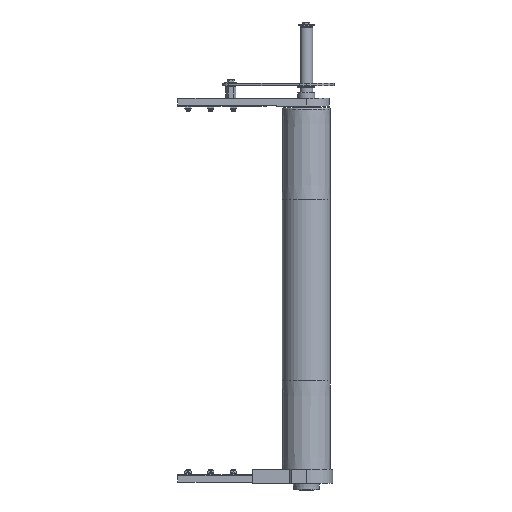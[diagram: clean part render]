
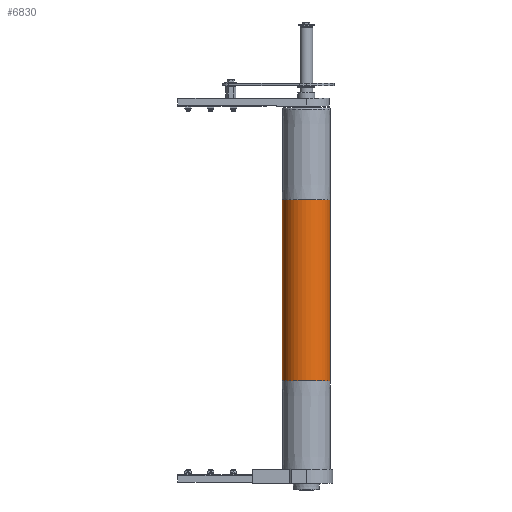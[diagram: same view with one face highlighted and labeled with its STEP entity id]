
A CAD part, front view. The second image highlights one B-rep face of the part: STEP entity #6830.
In plain terms, the highlighted cylindrical face has radius 47.5 mm (diameter 95 mm), a partial arc.
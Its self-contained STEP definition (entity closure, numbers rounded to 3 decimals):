
#252 = DIRECTION ( 'NONE',  ( 0., 0., -1. ) ) ;
#502 = CARTESIAN_POINT ( 'NONE',  ( 180., 0., -47.5 ) ) ;
#1133 = EDGE_CURVE ( 'NONE', #15030, #17204, #26416, .T. ) ;
#2314 = CYLINDRICAL_SURFACE ( 'NONE', #8768, 47.5 ) ;
#3085 = VERTEX_POINT ( 'NONE', #20996 ) ;
#6352 = CARTESIAN_POINT ( 'NONE',  ( 360., 0., -47.5 ) ) ;
#6830 = ADVANCED_FACE ( 'NONE', ( #20043 ), #2314, .T. ) ;
#8179 = VECTOR ( 'NONE', #14621, 1000. ) ;
#8768 = AXIS2_PLACEMENT_3D ( 'NONE', #10564, #10345, #22605 ) ;
#9446 = CIRCLE ( 'NONE', #27464, 47.5 ) ;
#9881 = CARTESIAN_POINT ( 'NONE',  ( -180., 0., -47.5 ) ) ;
#10345 = DIRECTION ( 'NONE',  ( -1., 0., 0. ) ) ;
#10491 = ORIENTED_EDGE ( 'NONE', *, *, #20661, .T. ) ;
#10564 = CARTESIAN_POINT ( 'NONE',  ( 360., 0., 0. ) ) ;
#11321 = DIRECTION ( 'NONE',  ( -1., 0., 0. ) ) ;
#12588 = EDGE_CURVE ( 'NONE', #3085, #17539, #24800, .T. ) ;
#12836 = AXIS2_PLACEMENT_3D ( 'NONE', #27003, #14717, #252 ) ;
#14573 = DIRECTION ( 'NONE',  ( 0., 0., -1. ) ) ;
#14621 = DIRECTION ( 'NONE',  ( -1., 0., 0. ) ) ;
#14689 = CARTESIAN_POINT ( 'NONE',  ( 180., 0., 0. ) ) ;
#14717 = DIRECTION ( 'NONE',  ( 1., 0., 0. ) ) ;
#15030 = VERTEX_POINT ( 'NONE', #502 ) ;
#15603 = EDGE_LOOP ( 'NONE', ( #27864, #18725, #18944, #10491 ) ) ;
#16218 = CARTESIAN_POINT ( 'NONE',  ( -180., 0., 47.5 ) ) ;
#17115 = DIRECTION ( 'NONE',  ( 1., 0., 0. ) ) ;
#17204 = VERTEX_POINT ( 'NONE', #9881 ) ;
#17539 = VERTEX_POINT ( 'NONE', #16218 ) ;
#18725 = ORIENTED_EDGE ( 'NONE', *, *, #25048, .F. ) ;
#18944 = ORIENTED_EDGE ( 'NONE', *, *, #12588, .T. ) ;
#20031 = VECTOR ( 'NONE', #11321, 1000. ) ;
#20043 = FACE_OUTER_BOUND ( 'NONE', #15603, .T. ) ;
#20661 = EDGE_CURVE ( 'NONE', #17539, #17204, #20705, .T. ) ;
#20705 = CIRCLE ( 'NONE', #12836, 47.5 ) ;
#20996 = CARTESIAN_POINT ( 'NONE',  ( 180., 0., 47.5 ) ) ;
#22605 = DIRECTION ( 'NONE',  ( 0., 0., 1. ) ) ;
#24800 = LINE ( 'NONE', #28994, #8179 ) ;
#25048 = EDGE_CURVE ( 'NONE', #3085, #15030, #9446, .T. ) ;
#26416 = LINE ( 'NONE', #6352, #20031 ) ;
#27003 = CARTESIAN_POINT ( 'NONE',  ( -180., 0., 0. ) ) ;
#27464 = AXIS2_PLACEMENT_3D ( 'NONE', #14689, #17115, #14573 ) ;
#27864 = ORIENTED_EDGE ( 'NONE', *, *, #1133, .F. ) ;
#28994 = CARTESIAN_POINT ( 'NONE',  ( 360., 0., 47.5 ) ) ;
